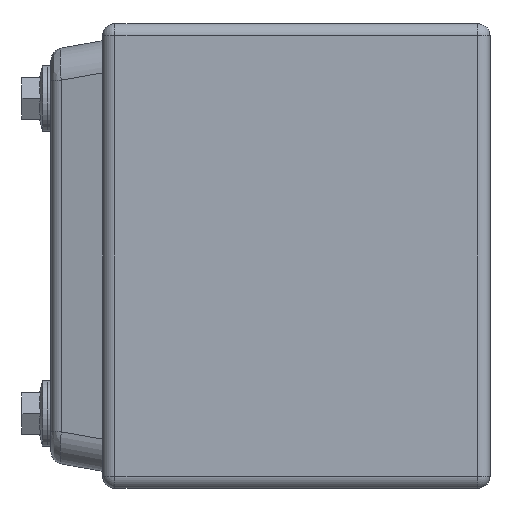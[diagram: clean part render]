
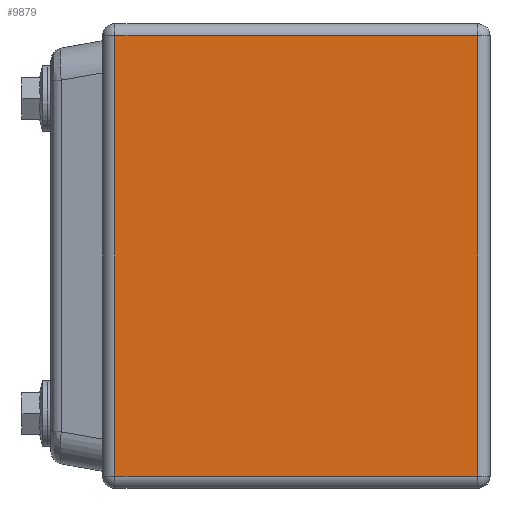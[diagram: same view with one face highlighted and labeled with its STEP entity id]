
A CAD part, left-side view. The second image highlights one B-rep face of the part: STEP entity #9879.
In plain terms, the highlighted planar face has unit normal (-1, 0, 0).
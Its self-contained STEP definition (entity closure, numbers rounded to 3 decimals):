
#202 = CARTESIAN_POINT ( 'NONE',  ( -100., 2.4, 42.6 ) ) ;
#428 = CARTESIAN_POINT ( 'NONE',  ( -100., 75., -42.6 ) ) ;
#988 = PLANE ( 'NONE',  #8819 ) ;
#1853 = LINE ( 'NONE', #1999, #13801 ) ;
#1999 = CARTESIAN_POINT ( 'NONE',  ( -100., 2.4, 45. ) ) ;
#2337 = ORIENTED_EDGE ( 'NONE', *, *, #12832, .T. ) ;
#3011 = EDGE_CURVE ( 'NONE', #7323, #9386, #13344, .T. ) ;
#4254 = DIRECTION ( 'NONE',  ( 0., -1., 0. ) ) ;
#4494 = ORIENTED_EDGE ( 'NONE', *, *, #13469, .T. ) ;
#5022 = CARTESIAN_POINT ( 'NONE',  ( -100., 2.4, -42.6 ) ) ;
#5380 = DIRECTION ( 'NONE',  ( -1., 0., 0. ) ) ;
#5657 = CARTESIAN_POINT ( 'NONE',  ( -100., 72.6, 42.6 ) ) ;
#6346 = DIRECTION ( 'NONE',  ( 0., 0., -1. ) ) ;
#6648 = EDGE_CURVE ( 'NONE', #14009, #10346, #9639, .T. ) ;
#7323 = VERTEX_POINT ( 'NONE', #10921 ) ;
#7577 = CARTESIAN_POINT ( 'NONE',  ( -100., 72.6, -45. ) ) ;
#8819 = AXIS2_PLACEMENT_3D ( 'NONE', #10173, #5380, #14842 ) ;
#9386 = VERTEX_POINT ( 'NONE', #5022 ) ;
#9639 = LINE ( 'NONE', #9709, #14353 ) ;
#9709 = CARTESIAN_POINT ( 'NONE',  ( -100., 75., 42.6 ) ) ;
#9879 = ADVANCED_FACE ( 'NONE', ( #11466 ), #988, .T. ) ;
#10044 = DIRECTION ( 'NONE',  ( 0., 0., 1. ) ) ;
#10173 = CARTESIAN_POINT ( 'NONE',  ( -100., 75., 45. ) ) ;
#10216 = ORIENTED_EDGE ( 'NONE', *, *, #3011, .T. ) ;
#10346 = VERTEX_POINT ( 'NONE', #5657 ) ;
#10921 = CARTESIAN_POINT ( 'NONE',  ( -100., 72.6, -42.6 ) ) ;
#11466 = FACE_OUTER_BOUND ( 'NONE', #15108, .T. ) ;
#11636 = ORIENTED_EDGE ( 'NONE', *, *, #6648, .T. ) ;
#12061 = DIRECTION ( 'NONE',  ( 0., 1., 0. ) ) ;
#12102 = VECTOR ( 'NONE', #6346, 1000. ) ;
#12832 = EDGE_CURVE ( 'NONE', #10346, #7323, #13437, .T. ) ;
#13344 = LINE ( 'NONE', #428, #14496 ) ;
#13437 = LINE ( 'NONE', #7577, #12102 ) ;
#13469 = EDGE_CURVE ( 'NONE', #9386, #14009, #1853, .T. ) ;
#13801 = VECTOR ( 'NONE', #10044, 1000. ) ;
#14009 = VERTEX_POINT ( 'NONE', #202 ) ;
#14353 = VECTOR ( 'NONE', #12061, 1000. ) ;
#14496 = VECTOR ( 'NONE', #4254, 1000. ) ;
#14842 = DIRECTION ( 'NONE',  ( 0., 0., 1. ) ) ;
#15108 = EDGE_LOOP ( 'NONE', ( #2337, #10216, #4494, #11636 ) ) ;
